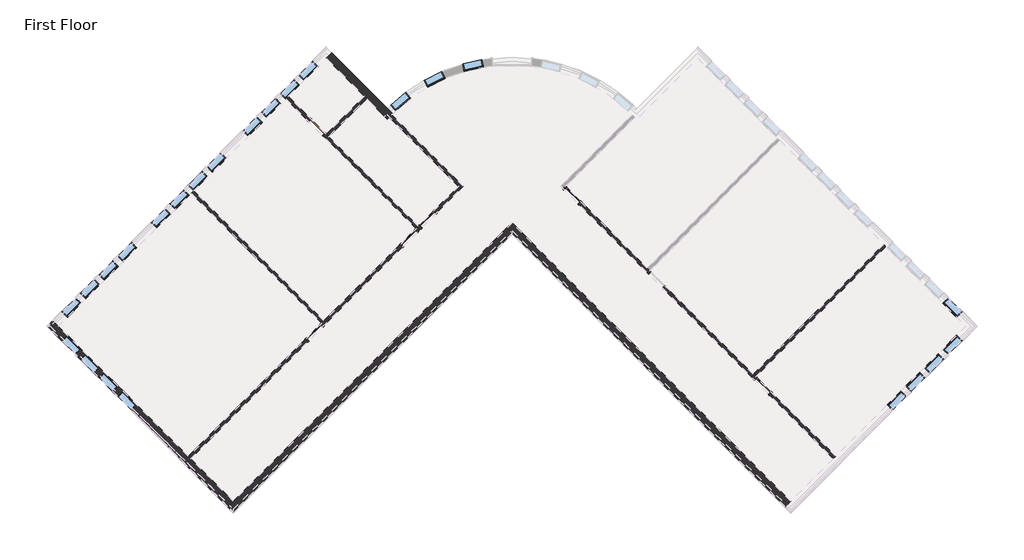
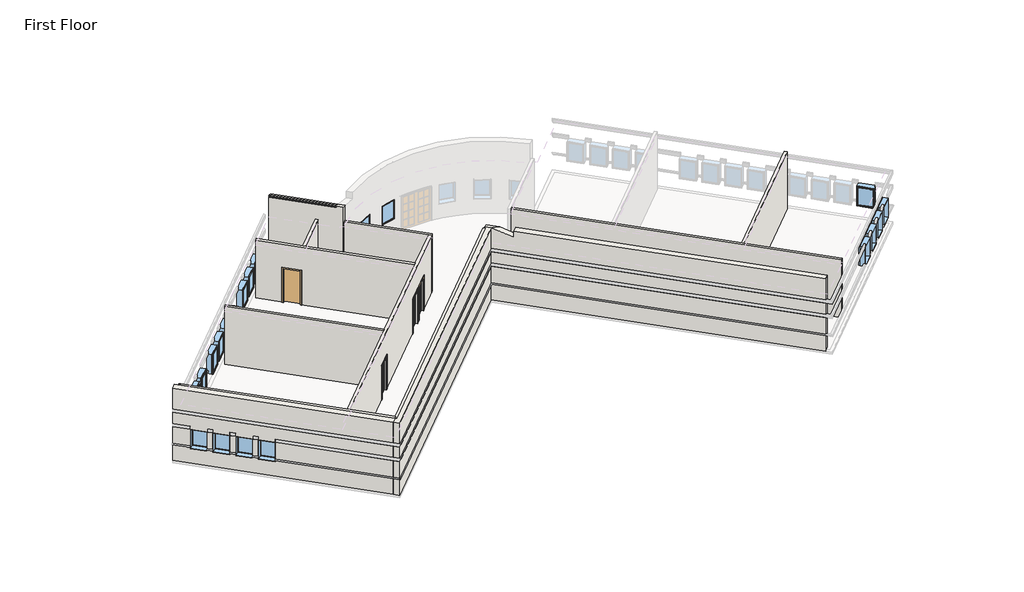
# One storey, part 1 of 4: 24 windows, 11 walls, 6 doors.
"""IFC4 building model written with IfcOpenShell, lengths in millimetres."""

from ifc_helpers import new_model, si_unit, frame, origin, origin_with_axes, place, context, project, spatial, polyline, circle_curve, ellipse_curve, outline, extrude, faceted_brep, transform, mapped, element, save
from ifc_brep_helpers import plane_surface, cylinder_surface, revolved_surface, advanced_brep
from components import door_f9494b7c, door_b81abb0e, door_5f5b55da, window_15c49d37, window_0e2fc6ce

model = new_model("IFC4")

# Units and contexts
model_context = context("Model", 3, world=origin())
ifc_project = project(units=[si_unit("LENGTHUNIT", "METRE", prefix="MILLI")], contexts=[model_context])

# Site, building, storey
site = spatial("IfcSite", under=ifc_project)
building = spatial("IfcBuilding", under=site)
storey = spatial("IfcBuildingStorey", under=building, Name="First Floor", Elevation=0.0)

# Doors
placement = place(None, origin())
door_shape = door_f9494b7c(model_context)
element("IfcDoor", 1, ObjectType="Single-Flush : 36\" x 84\"", at=placement, inside=storey, context=model_context, shape_type="MappedRepresentation", body=[
    mapped(door_shape, transform((-11920.1265343, 7875.9588464, 0.0), x_axis=(0.7071067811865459, -0.7071067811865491, 0.0), y_axis=(0.7071067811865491, 0.7071067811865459, 0.0), z_axis=(0.0, 0.0, 1.0))),
])
door_2_shape = door_b81abb0e(model_context)
element("IfcDoor", 2, ObjectType="Single-Glass 1 : 36\" x 84\"", at=placement, inside=storey, context=model_context, shape_type="MappedRepresentation", body=[
    mapped(door_2_shape, transform((-12027.7718255, -1647.4849877, 0.0), x_axis=(0.7071067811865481, 0.7071067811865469, 0.0), y_axis=(-0.7071067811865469, 0.7071067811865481, 0.0), z_axis=(0.0, 0.0, 1.0))),
])
element("IfcDoor", 3, ObjectType="Single-Glass 1 : 36\" x 84\"", at=placement, inside=storey, context=model_context, shape_type="MappedRepresentation", body=[
    mapped(door_2_shape, transform((-7643.2795567, 2737.0072811, 0.0), x_axis=(0.7071067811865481, 0.7071067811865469, 0.0), y_axis=(-0.7071067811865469, 0.7071067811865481, 0.0), z_axis=(0.0, 0.0, 1.0))),
])
door_3_shape = door_5f5b55da(model_context)
element("IfcDoor", 4, ObjectType="Single-Glass 1 : 36\" x 84\"", at=placement, inside=storey, context=model_context, shape_type="MappedRepresentation", body=[
    mapped(door_3_shape, transform((-6781.1749691, 3599.1118687, 0.0), x_axis=(-0.7071067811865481, -0.7071067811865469, 0.0), y_axis=(0.7071067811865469, -0.7071067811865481, 0.0), z_axis=(0.0, 0.0, 1.0))),
])
element("IfcDoor", 5, ObjectType="Single-Glass 1 : 36\" x 84\"", at=placement, inside=storey, context=model_context, shape_type="MappedRepresentation", body=[
    mapped(door_3_shape, transform((-66.4240191, 4710.6541283, 0.0), x_axis=(-0.7071067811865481, 0.7071067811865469, 0.0), y_axis=(-0.7071067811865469, -0.7071067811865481, 0.0), z_axis=(0.0, 0.0, 1.0))),
])
element("IfcDoor", 6, ObjectType="Single-Glass 1 : 36\" x 84\"", at=placement, inside=storey, context=model_context, shape_type="MappedRepresentation", body=[
    mapped(door_3_shape, transform((8770.3835686, -4126.1534594, 0.0), x_axis=(-0.7071067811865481, 0.7071067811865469, 0.0), y_axis=(-0.7071067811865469, -0.7071067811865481, 0.0), z_axis=(0.0, 0.0, 1.0))),
])

# Walls
element("IfcWall", 7, ObjectType="Exterior - Split Face and CMU on Mtl. Stud", at=placement, inside=storey, context=model_context, shape_type="Brep", body=[
    faceted_brep([(10063.54045, -9480.6311716, 0.0), (-2868.0283643, 3450.9376427, 0.0), (-2868.0283643, 3450.9376427, 4454.525), (-2369.6241496, 2952.533428, 4454.525), (-1756.7216693, 2339.6309478, 4165.6), (-1756.7216693, 2339.6309478, 4572.0), (10063.54045, -9480.6311716, 4572.0), (-3117.2304717, 3201.7355354, 4572.0), (-3117.2304717, 3201.7355354, 0.0), (-2868.0283643, 2952.533428, 0.0), (9814.3383427, -9729.833279, 0.0), (9814.3383427, -9729.833279, 1016.0), (-2868.0283643, 2952.533428, 1016.0), (-2933.1352212, 3017.6402849, 1016.0), (-2933.1352212, 3017.6402849, 1085.85), (-2868.0283643, 2952.533428, 1085.85), (9814.3383427, -9729.833279, 1085.85), (9814.3383427, -9729.833279, 2133.6), (-2868.0283643, 2952.533428, 2133.6), (-2933.1352212, 3017.6402849, 2133.6), (-2933.1352212, 3017.6402849, 2336.8), (-2868.0283643, 2952.533428, 2336.8), (9814.3383427, -9729.833279, 2336.8), (9814.3383427, -9729.833279, 3048.0), (-2868.0283643, 2952.533428, 3048.0), (-2933.1352212, 3017.6402849, 3048.0), (-2933.1352212, 3017.6402849, 3251.2), (-2868.0283643, 2952.533428, 3251.2), (9814.3383427, -9729.833279, 3251.2), (9814.3383427, -9729.833279, 4572.0), (-2005.9237767, 2090.4288404, 4572.0), (-2005.9237767, 2090.4288404, 4165.6), (-2868.0283643, 2952.533428, 4572.0), (-3052.1236148, 3266.8423923, 0.0), (9879.4451996, -9664.7264221, 3251.2), (9879.4451996, -9664.7264221, 3048.0), (9879.4451996, -9664.7264221, 2336.8), (9879.4451996, -9664.7264221, 2133.6), (9879.4451996, -9664.7264221, 1085.85), (9879.4451996, -9664.7264221, 1016.0), (9879.4451996, -9664.7264221, 0.0), (-2868.0283643, 3082.7471418, 1085.85), (-2868.0283643, 3082.7471418, 1016.0), (-2868.0283643, 3082.7471418, 2133.6), (-2868.0283643, 3082.7471418, 2336.8), (-2868.0283643, 3082.7471418, 3048.0), (-2868.0283643, 3082.7471418, 3251.2)], [[[0, 1, 2, 3, 4, 5, 6]], [[7, 8, 9, 10, 11, 12, 13, 14, 15, 16, 17, 18, 19, 20, 21, 22, 23, 24, 25, 26, 27, 28, 29, 30, 31, 32]], [[2, 1, 33, 8, 7]], [[0, 6, 29, 28, 34, 35, 23, 22, 36, 37, 17, 16, 38, 39, 11, 10, 40]], [[29, 6, 5, 30]], [[30, 5, 4, 31]], [[31, 4, 3, 32]], [[2, 7, 32, 3]], [[1, 0, 40, 33]], [[40, 10, 9, 8, 33]], [[14, 41, 38, 16, 15]], [[39, 42, 13, 12, 11]], [[41, 42, 39, 38]], [[42, 41, 14, 13]], [[37, 43, 19, 18, 17]], [[20, 44, 36, 22, 21]], [[44, 43, 37, 36]], [[43, 44, 20, 19]], [[35, 45, 25, 24, 23]], [[26, 46, 34, 28, 27]], [[46, 45, 35, 34]], [[45, 46, 26, 25]]]),
])
element("IfcWall", 8, ObjectType="Exterior - Split Face and CMU on Mtl. Stud", at=placement, inside=storey, context=model_context, shape_type="Brep", body=[
    faceted_brep([(-3117.2304717, 3201.7355354, 0.0), (-15799.5971786, -9480.6311716, 0.0), (-16048.799286, -9729.833279, 0.0), (-16048.799286, -9729.833279, 1016.0), (-15983.6924291, -9664.7264221, 1016.0), (-15983.6924291, -9664.7264221, 1085.85), (-16048.799286, -9729.833279, 1085.85), (-16048.799286, -9729.833279, 2133.6), (-15983.6924291, -9664.7264221, 2133.6), (-15983.6924291, -9664.7264221, 2336.8), (-16048.799286, -9729.833279, 2336.8), (-16048.799286, -9729.833279, 3048.0), (-15983.6924291, -9664.7264221, 3048.0), (-15983.6924291, -9664.7264221, 3251.2), (-16048.799286, -9729.833279, 3251.2), (-16048.799286, -9729.833279, 4572.0), (-15799.5971786, -9480.6311716, 4572.0), (-3135.1909839, 3183.7750231, 4572.0), (-3117.2304717, 3201.7355354, 4572.0), (-15799.5971786, -9979.0353863, 0.0), (-2868.0283643, 2952.533428, 0.0), (-2868.0283643, 2952.533428, 1016.0), (-15799.5971786, -9979.0353863, 1016.0), (-15799.5971786, -9979.0353863, 1085.85), (-2868.0283643, 2952.533428, 1085.85), (-2868.0283643, 2952.533428, 2133.6), (-15799.5971786, -9979.0353863, 2133.6), (-15799.5971786, -9979.0353863, 2336.8), (-2868.0283643, 2952.533428, 2336.8), (-2868.0283643, 2952.533428, 3048.0), (-15799.5971786, -9979.0353863, 3048.0), (-15799.5971786, -9979.0353863, 4572.0), (-15799.5971786, -9979.0353863, 3251.2), (-2868.0283643, 2952.533428, 3251.2), (-2868.0283643, 2952.533428, 4572.0), (-2885.9888765, 2934.5729158, 4572.0), (-15864.7040355, -9913.9285294, 0.0), (-2933.1352212, 3017.6402849, 3251.2), (-2933.1352212, 3017.6402849, 3048.0), (-2933.1352212, 3017.6402849, 2336.8), (-2933.1352212, 3017.6402849, 2133.6), (-2933.1352212, 3017.6402849, 1085.85), (-2933.1352212, 3017.6402849, 1016.0), (-2933.1352212, 3017.6402849, 0.0), (-15799.5971786, -9848.8216726, 1085.85), (-15799.5971786, -9848.8216726, 1016.0), (-15799.5971786, -9848.8216726, 2133.6), (-15799.5971786, -9848.8216726, 2336.8), (-15799.5971786, -9848.8216726, 3048.0), (-15799.5971786, -9848.8216726, 3251.2)], [[[0, 1, 2, 3, 4, 5, 6, 7, 8, 9, 10, 11, 12, 13, 14, 15, 16, 17, 18]], [[19, 20, 21, 22]], [[23, 24, 25, 26]], [[27, 28, 29, 30]], [[31, 32, 33, 34, 35]], [[2, 36, 19, 22, 3]], [[6, 23, 26, 7]], [[10, 27, 30, 11]], [[15, 14, 32, 31]], [[0, 18, 34, 33, 37, 38, 29, 28, 39, 40, 25, 24, 41, 42, 21, 20, 43]], [[2, 1, 0, 43, 36]], [[43, 20, 19, 36]], [[5, 44, 41, 24, 23, 6]], [[42, 45, 4, 3, 22, 21]], [[44, 45, 42, 41]], [[45, 44, 5, 4]], [[40, 46, 8, 7, 26, 25]], [[9, 47, 39, 28, 27, 10]], [[47, 46, 40, 39]], [[46, 47, 9, 8]], [[38, 48, 12, 11, 30, 29]], [[13, 49, 37, 33, 32, 14]], [[49, 48, 38, 37]], [[48, 49, 13, 12]], [[15, 31, 35, 34, 18, 17, 16]]]),
    faceted_brep([(-15799.5971786, -9480.6311716, 4689.475), (-3366.432579, 2952.533428, 4689.475), (-3260.200231, 3058.765776, 4639.3965909), (-15799.5971786, -9480.6311716, 4639.3965909), (-15874.9878772, -9556.0218702, 4653.9354839), (-3215.6511819, 2952.533428, 4653.9354839), (-15799.5971786, -9631.4125687, 4653.9354839)], [[[0, 1, 2, 3, 4]], [[2, 1, 5]], [[1, 0, 6, 5]], [[0, 4, 6]], [[6, 3, 2, 5]], [[3, 6, 4]]]),
])
element("IfcWall", 9, ObjectType="Exterior - Split Face and CMU on Mtl. Stud", at=placement, inside=storey, context=model_context, shape_type="Brep", body=[
    faceted_brep([(-23922.2388402, -1357.9895101, 4689.475), (-15799.5971786, -9480.6311716, 4689.475), (-15799.5971786, -9480.6311716, 4639.3965909), (-23922.2388402, -1357.9895101, 4639.3965909), (-23997.6295387, -1282.5988115, 4653.9354839), (-15874.9878772, -9556.0218702, 4653.9354839), (-24073.0202373, -1357.9895101, 4653.9354839)], [[[0, 1, 2, 3, 4]], [[2, 1, 5]], [[1, 0, 6, 5]], [[0, 4, 6]], [[6, 3, 2, 5]], [[3, 6, 4]]]),
    faceted_brep([(-15799.5971786, -9480.6311716, 0.0), (-17775.2535253, -7504.974825, 0.0), (-17885.2616628, -7394.9666875, 0.0), (-23922.2388402, -1357.9895101, 0.0), (-24171.4409475, -1108.7874027, 0.0), (-24171.4409475, -1108.7874027, 1016.0), (-24106.3340906, -1173.8942596, 1016.0), (-24106.3340906, -1173.8942596, 1085.85), (-24171.4409475, -1108.7874027, 1085.85), (-24171.4409475, -1108.7874027, 2133.6), (-24106.3340906, -1173.8942596, 2133.6), (-24106.3340906, -1173.8942596, 2336.8), (-24171.4409475, -1108.7874027, 2336.8), (-24171.4409475, -1108.7874027, 3048.0), (-24106.3340906, -1173.8942596, 3048.0), (-24106.3340906, -1173.8942596, 3251.2), (-24171.4409475, -1108.7874027, 3251.2), (-24171.4409475, -1108.7874027, 4572.0), (-23922.2388402, -1357.9895101, 4572.0), (-15799.5971786, -9480.6311716, 4572.0), (-20921.7107637, -4358.5175865, 2133.6), (-20921.7107637, -4358.5175865, 914.4), (-20275.132323, -5005.0960273, 914.4), (-20275.132323, -5005.0960273, 2133.6), (-21783.8153513, -3496.4129989, 2133.6), (-21783.8153513, -3496.4129989, 914.4), (-21137.2369106, -4142.9914396, 914.4), (-21137.2369106, -4142.9914396, 2133.6), (-22645.9199389, -2634.3084113, 2133.6), (-22645.9199389, -2634.3084113, 914.4), (-21999.3414982, -3280.886852, 914.4), (-21999.3414982, -3280.886852, 2133.6), (-23508.0245266, -1772.2038237, 2133.6), (-23508.0245266, -1772.2038237, 914.4), (-22861.4460859, -2418.7822644, 914.4), (-22861.4460859, -2418.7822644, 2133.6), (-24420.6430549, -1357.9895101, 0.0), (-16048.799286, -9729.833279, 0.0), (-16048.799286, -9729.833279, 1016.0), (-20524.3344303, -5254.2981346, 1016.0), (-20524.3344303, -5254.2981346, 914.4), (-21170.9128711, -4607.7196939, 914.4), (-21170.9128711, -4607.7196939, 1016.0), (-21386.439018, -4392.193547, 1016.0), (-21386.439018, -4392.193547, 914.4), (-22033.0174587, -3745.6151063, 914.4), (-22033.0174587, -3745.6151063, 1016.0), (-22248.5436056, -3530.0889594, 1016.0), (-22248.5436056, -3530.0889594, 914.4), (-22895.1220463, -2883.5105187, 914.4), (-22895.1220463, -2883.5105187, 1016.0), (-23110.6481932, -2667.9843718, 1016.0), (-23110.6481932, -2667.9843718, 914.4), (-23757.2266339, -2021.405931, 914.4), (-23757.2266339, -2021.405931, 1016.0), (-24420.6430549, -1357.9895101, 1016.0), (-21170.9128711, -4607.7196939, 2133.6), (-20524.3344303, -5254.2981346, 2133.6), (-20524.3344303, -5254.2981346, 2336.8), (-16048.799286, -9729.833279, 2336.8), (-16048.799286, -9729.833279, 3048.0), (-24420.6430549, -1357.9895101, 3048.0), (-24420.6430549, -1357.9895101, 2336.8), (-23757.2266339, -2021.405931, 2336.8), (-23757.2266339, -2021.405931, 2133.6), (-23110.6481932, -2667.9843718, 2133.6), (-23110.6481932, -2667.9843718, 2336.8), (-22895.1220463, -2883.5105187, 2336.8), (-22895.1220463, -2883.5105187, 2133.6), (-22248.5436056, -3530.0889594, 2133.6), (-22248.5436056, -3530.0889594, 2336.8), (-22033.0174587, -3745.6151063, 2336.8), (-22033.0174587, -3745.6151063, 2133.6), (-21386.439018, -4392.193547, 2133.6), (-21386.439018, -4392.193547, 2336.8), (-21170.9128711, -4607.7196939, 2336.8), (-20524.3344303, -5254.2981346, 1085.85), (-16048.799286, -9729.833279, 1085.85), (-16048.799286, -9729.833279, 2133.6), (-21170.9128711, -4607.7196939, 1085.85), (-21386.439018, -4392.193547, 1085.85), (-22033.0174587, -3745.6151063, 1085.85), (-22248.5436056, -3530.0889594, 1085.85), (-22895.1220463, -2883.5105187, 1085.85), (-23110.6481932, -2667.9843718, 1085.85), (-23757.2266339, -2021.405931, 1085.85), (-24420.6430549, -1357.9895101, 2133.6), (-24420.6430549, -1357.9895101, 1085.85), (-24420.6430549, -1357.9895101, 4572.0), (-24420.6430549, -1357.9895101, 3251.2), (-16048.799286, -9729.833279, 3251.2), (-16048.799286, -9729.833279, 4572.0), (-15983.6924291, -9664.7264221, 3251.2), (-15983.6924291, -9664.7264221, 3048.0), (-15983.6924291, -9664.7264221, 2336.8), (-15983.6924291, -9664.7264221, 2133.6), (-15983.6924291, -9664.7264221, 1085.85), (-15983.6924291, -9664.7264221, 1016.0), (-21105.8060142, -4542.612837, 2133.6), (-21105.8060142, -4542.612837, 1085.85), (-21105.8060142, -4542.612837, 1016.0), (-20459.2275735, -5189.1912777, 1016.0), (-20459.2275735, -5189.1912777, 1085.85), (-20459.2275735, -5189.1912777, 2133.6), (-21967.9106018, -3680.5082494, 2133.6), (-21967.9106018, -3680.5082494, 1085.85), (-21967.9106018, -3680.5082494, 1016.0), (-21321.3321611, -4327.0866901, 1016.0), (-21321.3321611, -4327.0866901, 1085.85), (-21321.3321611, -4327.0866901, 2133.6), (-22830.0151894, -2818.4036618, 2133.6), (-22830.0151894, -2818.4036618, 1085.85), (-22830.0151894, -2818.4036618, 1016.0), (-22183.4367487, -3464.9821025, 1016.0), (-22183.4367487, -3464.9821025, 1085.85), (-22183.4367487, -3464.9821025, 2133.6), (-23692.119777, -1956.2990742, 2133.6), (-23692.119777, -1956.2990742, 1085.85), (-23692.119777, -1956.2990742, 1016.0), (-23045.5413363, -2602.8775149, 1016.0), (-23045.5413363, -2602.8775149, 1085.85), (-23045.5413363, -2602.8775149, 2133.6), (-24290.4293411, -1357.9895101, 1085.85), (-24290.4293411, -1357.9895101, 1016.0), (-20459.2275735, -5189.1912777, 2133.6), (-20459.2275735, -5189.1912777, 2336.8), (-21105.8060142, -4542.612837, 2133.6), (-21105.8060142, -4542.612837, 2336.8), (-21321.3321611, -4327.0866901, 2336.8), (-21321.3321611, -4327.0866901, 2133.6), (-21967.9106018, -3680.5082494, 2133.6), (-21967.9106018, -3680.5082494, 2336.8), (-22183.4367487, -3464.9821025, 2336.8), (-22183.4367487, -3464.9821025, 2133.6), (-22830.0151894, -2818.4036618, 2133.6), (-22830.0151894, -2818.4036618, 2336.8), (-23045.5413363, -2602.8775149, 2336.8), (-23045.5413363, -2602.8775149, 2133.6), (-23692.119777, -1956.2990742, 2133.6), (-23692.119777, -1956.2990742, 2336.8), (-24290.4293411, -1357.9895101, 2133.6), (-24290.4293411, -1357.9895101, 2336.8), (-24290.4293411, -1357.9895101, 3048.0), (-24290.4293411, -1357.9895101, 3251.2)], [[[0, 1, 2, 3, 4, 5, 6, 7, 8, 9, 10, 11, 12, 13, 14, 15, 16, 17, 18, 19], [20, 21, 22, 23], [24, 25, 26, 27], [28, 29, 30, 31], [32, 33, 34, 35]], [[36, 37, 38, 39, 40, 41, 42, 43, 44, 45, 46, 47, 48, 49, 50, 51, 52, 53, 54, 55]], [[56, 57, 58, 59, 60, 61, 62, 63, 64, 65, 66, 67, 68, 69, 70, 71, 72, 73, 74, 75]], [[57, 76, 77, 78]], [[79, 56, 73, 80]], [[81, 72, 69, 82]], [[83, 68, 65, 84]], [[85, 64, 86, 87]], [[88, 89, 90, 91]], [[37, 0, 19, 91, 90, 92, 93, 60, 59, 94, 95, 78, 77, 96, 97, 38]], [[4, 36, 55, 5]], [[8, 87, 86, 9]], [[12, 62, 61, 13]], [[17, 16, 89, 88]], [[4, 3, 2, 1, 0, 37, 36]], [[21, 20, 98, 56, 79, 99, 100, 42, 41]], [[22, 21, 41, 40]], [[23, 22, 40, 39, 101, 102, 76, 57, 103]], [[20, 23, 103, 57, 56, 98]], [[25, 24, 104, 72, 81, 105, 106, 46, 45]], [[26, 25, 45, 44]], [[27, 26, 44, 43, 107, 108, 80, 73, 109]], [[24, 27, 109, 73, 72, 104]], [[29, 28, 110, 68, 83, 111, 112, 50, 49]], [[30, 29, 49, 48]], [[31, 30, 48, 47, 113, 114, 82, 69, 115]], [[28, 31, 115, 69, 68, 110]], [[33, 32, 116, 64, 85, 117, 118, 54, 53]], [[34, 33, 53, 52]], [[35, 34, 52, 51, 119, 120, 84, 65, 121]], [[32, 35, 121, 65, 64, 116]], [[102, 96, 77, 76]], [[97, 101, 39, 38]], [[96, 102, 101, 97]], [[108, 99, 79, 80]], [[100, 107, 43, 42]], [[99, 108, 107, 100]], [[114, 105, 81, 82]], [[106, 113, 47, 46]], [[105, 114, 113, 106]], [[120, 111, 83, 84]], [[112, 119, 51, 50]], [[111, 120, 119, 112]], [[122, 117, 85, 87, 8, 7]], [[118, 123, 6, 5, 55, 54]], [[117, 122, 123, 118]], [[123, 122, 7, 6]], [[124, 57, 78, 95]], [[58, 125, 94, 59]], [[57, 124, 125, 58]], [[125, 124, 95, 94]], [[126, 56, 75, 127]], [[128, 74, 73, 129]], [[56, 126, 129, 73]], [[126, 127, 128, 129]], [[127, 75, 74, 128]], [[130, 72, 71, 131]], [[132, 70, 69, 133]], [[72, 130, 133, 69]], [[130, 131, 132, 133]], [[131, 71, 70, 132]], [[134, 68, 67, 135]], [[136, 66, 65, 137]], [[68, 134, 137, 65]], [[134, 135, 136, 137]], [[135, 67, 66, 136]], [[138, 64, 63, 139]], [[64, 138, 140, 10, 9, 86]], [[138, 139, 141, 140]], [[139, 63, 62, 12, 11, 141]], [[140, 141, 11, 10]], [[93, 142, 14, 13, 61, 60]], [[15, 143, 92, 90, 89, 16]], [[143, 142, 93, 92]], [[142, 143, 15, 14]], [[19, 18, 17, 88, 91]]]),
])
element("IfcWall", 10, ObjectType="Exterior - Split Face and CMU on Mtl. Stud", at=placement, inside=storey, context=model_context, shape_type="AdvancedBrep", body=[
    advanced_brep(
    [(-8658.0122729, 8244.1131219, 0.0), (-8658.0122729, 8244.1131219, 4689.475), (-11489.0742405, 11075.1750895, 4689.475), (-11489.0742405, 11075.1750895, 4639.3965909), (-8911.6883314, 8497.7891804, 4639.3965909), (-8911.6883314, 8497.7891804, 4572.0), (-11489.0742405, 11075.1750895, 4572.0), (-11489.0742405, 11075.1750895, 0.0), (-9728.9440408, 9315.0448898, 0.0), (-9618.9359033, 9205.0367523, 0.0), (-8413.2817722, 8497.7868359, 4572.0), (-8413.2817722, 8497.7868359, 0.0), (-8662.486224, 8746.9912878, 0.0), (-11239.8721332, 11324.3771969, 0.0), (-11239.8721332, 11324.3771969, 1016.0), (-8662.486224, 8746.9912878, 1016.0), (-8597.3787742, 8681.8838379, 1016.0), (-8597.3787742, 8681.8838379, 1085.85), (-8662.486224, 8746.9912878, 1085.85), (-11239.8721332, 11324.3771969, 1085.85), (-11239.8721332, 11324.3771969, 2133.6), (-8662.486224, 8746.9912878, 2133.6), (-8597.3787742, 8681.8838379, 2133.6), (-8597.3787742, 8681.8838379, 2336.8), (-8662.486224, 8746.9912878, 2336.8), (-11239.8721332, 11324.3771969, 2336.8), (-11239.8721332, 11324.3771969, 3048.0), (-8662.486224, 8746.9912878, 3048.0), (-8597.3787742, 8681.8838379, 3048.0), (-8597.3787742, 8681.8838379, 3251.2), (-8662.486224, 8746.9912878, 3251.2), (-11239.8721332, 11324.3771969, 3251.2), (-11239.8721332, 11324.3771969, 4572.0), (-8662.486224, 8746.9912878, 4572.0), (-11304.9789901, 11259.27034, 3251.2), (-11304.9789901, 11259.27034, 3048.0), (-11304.9789901, 11259.27034, 2336.8), (-11304.9789901, 11259.27034, 2133.6), (-11304.9789901, 11259.27034, 1085.85), (-11304.9789901, 11259.27034, 1016.0), (-11413.683542, 11150.5657881, 4653.9354839), (-8557.7157352, 8350.8336041, 0.0), (-8449.0111375, 8462.1452813, 0.0), (-8836.2976328, 8573.179879, 4653.9354839), (-8662.3967205, 8616.6880705, 1085.85), (-8662.3967205, 8616.6880705, 1016.0), (-8662.3967205, 8616.6880705, 2336.8), (-8662.3967205, 8616.6880705, 2133.6), (-8662.3967205, 8616.6880705, 3251.2), (-8662.3967205, 8616.6880705, 3048.0)],
    [
        (0, 1),
        (1, 2),
        (2, 3),
        (3, 4),
        (4, 5),
        (5, 6),
        (6, 7),
        (7, 8),
        (8, 9),
        (9, 0),
        (10, 11),
        (11, 12),
        (12, 13),
        (13, 14),
        (14, 15),
        (15, 16),
        (16, 17),
        (17, 18),
        (18, 19),
        (19, 20),
        (20, 21),
        (21, 22),
        (22, 23),
        (23, 24),
        (24, 25),
        (25, 26),
        (26, 27),
        (27, 28),
        (28, 29),
        (29, 30),
        (30, 31),
        (31, 32),
        (32, 33),
        (33, 10),
        (13, 7),
        (6, 32),
        (31, 34),
        (34, 35),
        (35, 26),
        (25, 36),
        (36, 37),
        (37, 20),
        (19, 38),
        (38, 39),
        (39, 14),
        (2, 40),
        (40, 3),
        (0, 41, circle_curve(frame((-2868.0283643, 2903.1420194, 0.0), z_axis=(0.0, 0.0, -1.0), x_axis=(1.0, 0.0, 0.0)), 7877.175)),
        (41, 42, circle_curve(frame((-2868.0283643, 2903.1420194, 0.0), z_axis=(0.0, 0.0, -1.0), x_axis=(1.0, 0.0, 0.0)), 7877.175)),
        (42, 11, circle_curve(frame((-2868.0283643, 2903.1420194, 0.0), z_axis=(0.0, 0.0, -1.0), x_axis=(1.0, 0.0, 0.0)), 7877.175)),
        (10, 1, ellipse_curve(frame((-2868.0283643, 2903.1420194, 4583.6416667), z_axis=(0.2236067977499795, 0.22360679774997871, 0.9486832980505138), x_axis=(0.6708203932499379, 0.6708203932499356, -0.31622776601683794)), 8303.2715092, 7877.175)),
        (33, 43),
        (43, 40),
        (44, 45),
        (45, 39),
        (38, 44),
        (17, 44, circle_curve(frame((-2868.0283643, 2903.1420194, 1085.85), z_axis=(0.0, 0.0, 1.0), x_axis=(-0.7040995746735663, 0.7101012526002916, 0.0)), 8137.525)),
        (45, 16, circle_curve(frame((-2868.0283643, 2903.1420194, 1016.0), z_axis=(0.0, 0.0, -1.0), x_axis=(-0.7040995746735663, 0.7101012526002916, 0.0)), 8137.525)),
        (46, 47),
        (47, 37),
        (36, 46),
        (47, 22, circle_curve(frame((-2868.0283643, 2903.1420194, 2133.6), z_axis=(0.0, 0.0, -1.0), x_axis=(-0.7120553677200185, 0.70212331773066, 0.0)), 8137.525)),
        (46, 23, circle_curve(frame((-2868.0283643, 2903.1420194, 2336.8), z_axis=(0.0, 0.0, -1.0), x_axis=(-0.7120553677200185, 0.70212331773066, 0.0)), 8137.525)),
        (48, 49),
        (49, 35),
        (34, 48),
        (49, 28, circle_curve(frame((-2868.0283643, 2903.1420194, 3048.0), z_axis=(0.0, 0.0, -1.0), x_axis=(-0.7120553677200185, 0.70212331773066, 0.0)), 8137.525)),
        (48, 29, circle_curve(frame((-2868.0283643, 2903.1420194, 3251.2), z_axis=(0.0, 0.0, -1.0), x_axis=(-0.7120553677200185, 0.70212331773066, 0.0)), 8137.525)),
        (5, 33),
        (4, 43),
    ],
    [
        plane_surface(frame((-11738.2763479, 11324.3771969, 0.0), z_axis=(-0.7071067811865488, -0.7071067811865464, 0.0), x_axis=(0.7071067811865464, -0.7071067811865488, 0.0))),
        plane_surface(frame((-11489.0742405, 11573.5793042, 0.0), z_axis=(0.7071067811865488, 0.7071067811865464, 0.0), x_axis=(-0.7071067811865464, 0.7071067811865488, 0.0))),
        plane_surface(frame((-24171.4409475, -1607.1916175, 0.0), z_axis=(-0.7071067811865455, 0.7071067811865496, 0.0), x_axis=(0.7071067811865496, 0.7071067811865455, 0.0))),
        revolved_surface(polyline([(5009.146635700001, 2903.1420194, 0.0), (5009.146635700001, 2903.1420194, 7209.366666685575)]), (-2868.0283643, 2903.1420194, 0.0), (0.0, 0.0, -1.0)),
        plane_surface(frame((-1143.8191891, 2952.533428, 4165.6), z_axis=(0.2236067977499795, 0.22360679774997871, 0.9486832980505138), x_axis=(-0.7071067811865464, 0.7071067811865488, 0.0))),
        plane_surface(frame((-11364.4731869, 11448.9782506, 0.0), z_axis=(0.0, 0.0, -1.0), x_axis=(-0.7071067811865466, 0.7071067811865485, 0.0))),
        plane_surface(frame((-11489.0742405, 11443.3655905, 1016.0), z_axis=(0.7071067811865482, 0.7071067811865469, 0.0), x_axis=(0.7071067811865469, -0.7071067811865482, 0.0))),
        plane_surface(frame((-2868.0283643, 2903.1420194, 1085.85), z_axis=(0.0, 0.0, -1.0), x_axis=(-0.7040995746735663, 0.7101012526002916, 0.0))),
        plane_surface(frame((-2868.0283643, 2903.1420194, 1016.0), z_axis=(0.0, 0.0, 1.0), x_axis=(-0.7040995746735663, 0.7101012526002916, 0.0))),
        cylinder_surface(frame((-2868.0283643, 2903.1420194, 1016.0), z_axis=(0.0, 0.0, -1.0), x_axis=(-0.7040995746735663, 0.7101012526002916, 0.0)), 8137.525),
        plane_surface(frame((-11489.0742405, 11443.3655905, 2133.6), z_axis=(0.7071067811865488, 0.7071067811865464, 0.0), x_axis=(0.7071067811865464, -0.7071067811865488, 0.0))),
        plane_surface(frame((-2868.0283643, 2903.1420194, 2133.6), z_axis=(0.0, 0.0, 1.0), x_axis=(-0.7120553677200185, 0.70212331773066, 0.0))),
        cylinder_surface(frame((-2868.0283643, 2903.1420194, 2133.6), z_axis=(0.0, 0.0, -1.0), x_axis=(-0.7120553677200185, 0.70212331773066, 0.0)), 8137.525),
        plane_surface(frame((-2868.0283643, 2903.1420194, 2336.8), z_axis=(0.0, 0.0, -1.0), x_axis=(-0.7120553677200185, 0.70212331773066, 0.0))),
        plane_surface(frame((-11489.0742405, 11443.3655905, 3048.0), z_axis=(0.7071067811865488, 0.7071067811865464, 0.0), x_axis=(0.7071067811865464, -0.7071067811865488, 0.0))),
        plane_surface(frame((-2868.0283643, 2903.1420194, 3048.0), z_axis=(0.0, 0.0, 1.0), x_axis=(-0.7120553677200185, 0.70212331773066, 0.0))),
        cylinder_surface(frame((-2868.0283643, 2903.1420194, 3048.0), z_axis=(0.0, 0.0, -1.0), x_axis=(-0.7120553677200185, 0.70212331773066, 0.0)), 8137.525),
        plane_surface(frame((-2868.0283643, 2903.1420194, 3251.2), z_axis=(0.0, 0.0, -1.0), x_axis=(-0.7120553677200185, 0.70212331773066, 0.0))),
        plane_surface(frame((-24438.6035671, -1340.0289979, 4572.0), z_axis=(0.0, 0.0, 1.0), x_axis=(0.7071067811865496, 0.7071067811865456, 0.0))),
        plane_surface(frame((-8662.486224, 8746.9912878, 4185.7445793), z_axis=(-0.7071067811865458, 0.7071067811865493, 0.0), x_axis=(0.7071067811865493, 0.7071067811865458, 0.0))),
        plane_surface(frame((-11489.0742405, 11034.763937, 4635.5), z_axis=(0.0955394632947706, 0.09553946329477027, -0.9908301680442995), x_axis=(0.7071067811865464, -0.7071067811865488, 0.0))),
    ],
    [
        (0, [[1, 2, 3, 4, 5, 6, 7, 8, 9, 10]]),
        (1, [[11, 12, 13, 14, 15, 16, 17, 18, 19, 20, 21, 22, 23, 24, 25, 26, 27, 28, 29, 30, 31, 32, 33, 34]]),
        (2, [[35, -7, 36, -32, 37, 38, 39, -26, 40, 41, 42, -20, 43, 44, 45, -14]]),
        (2, [[-3, 46, 47]]),
        (3, [[48, 49, 50, -11, 51, -1]]),
        (4, [[-2, -51, -34, 52, 53, -46]]),
        (5, [[-50, -49, -48, -10, -9, -8, -35, -13, -12]]),
        (6, [[54, 55, -44, 56]]),
        (7, [[57, -56, -43, -19, -18]]),
        (8, [[-55, 58, -16, -15, -45]]),
        (9, [[-54, -57, -17, -58]]),
        (10, [[59, 60, -41, 61]]),
        (11, [[-60, 62, -22, -21, -42]]),
        (12, [[-59, 63, -23, -62]]),
        (13, [[-63, -61, -40, -25, -24]]),
        (14, [[64, 65, -38, 66]]),
        (15, [[-65, 67, -28, -27, -39]]),
        (16, [[-64, 68, -29, -67]]),
        (17, [[-68, -66, -37, -31, -30]]),
        (18, [[69, -33, -36, -6]]),
        (19, [[70, -52, -69, -5]]),
        (20, [[-70, -4, -47, -53]]),
    ],
),
])
element("IfcWall", 11, ObjectType="Interior - 6 1/8\" Partition (2-hr)", at=placement, inside=storey, context=model_context, shape_type="Brep", body=[
    faceted_brep([(-7264.9862676, 3005.2924327, 0.0), (-7049.4601207, 3220.8185796, 0.0), (-7049.4601207, 3220.8185796, 2133.6), (-6402.88168, 3867.3970204, 2133.6), (-6402.88168, 3867.3970204, 0.0), (-5238.5804157, 5031.6982846, 0.0), (-5238.5804157, 5031.6982846, 3657.6), (-17775.2535253, -7504.974825, 3657.6), (-17775.2535253, -7504.974825, 0.0), (-12296.0569771, -2025.7782768, 0.0), (-12296.0569771, -2025.7782768, 2133.6), (-11649.4785364, -1379.1998361, 2133.6), (-11649.4785364, -1379.1998361, 0.0), (-7911.5647083, 2358.713992, 0.0), (-7911.5647083, 2358.713992, 2133.6), (-7264.9862676, 3005.2924327, 2133.6), (-7159.4682582, 3330.8267171, 2133.6), (-7159.4682582, 3330.8267171, 0.0), (-7212.2272629, 3278.0677124, 0.0), (-7322.2354004, 3168.0595749, 0.0), (-7374.9944051, 3115.3005702, 0.0), (-7374.9944051, 3115.3005702, 2133.6), (-8021.5728458, 2468.7221295, 2133.6), (-8021.5728458, 2468.7221295, 0.0), (-11596.7195317, -1106.4245564, 0.0), (-11706.7276692, -1216.4326939, 0.0), (-11759.4866739, -1269.1916986, 0.0), (-11759.4866739, -1269.1916986, 2133.6), (-12406.0651146, -1915.7701393, 2133.6), (-12406.0651146, -1915.7701393, 0.0), (-17885.2616628, -7394.9666875, 0.0), (-17885.2616628, -7394.9666875, 3657.6), (-11706.7276692, -1216.4326939, 3657.6), (-11596.7195317, -1106.4245564, 3657.6), (-7322.2354004, 3168.0595749, 3657.6), (-7212.2272629, 3278.0677124, 3657.6), (-5348.5885532, 5141.7064221, 3657.6), (-5348.5885532, 5141.7064221, 0.0), (-6512.8898174, 3977.4051578, 0.0), (-6512.8898174, 3977.4051578, 2133.6)], [[[0, 1, 2, 3, 4, 5, 6, 7, 8, 9, 10, 11, 12, 13, 14, 15]], [[16, 17, 18, 19, 20, 21, 22, 23, 24, 25, 26, 27, 28, 29, 30, 31, 32, 33, 34, 35, 36, 37, 38, 39]], [[20, 19, 18, 17, 1, 0]], [[9, 8, 30, 29]], [[13, 12, 26, 25, 24, 23]], [[38, 37, 5, 4]], [[7, 6, 36, 35, 34, 33, 32, 31]], [[8, 7, 31, 30]], [[6, 5, 37, 36]], [[27, 26, 12, 11]], [[28, 27, 11, 10]], [[29, 28, 10, 9]], [[21, 20, 0, 15]], [[22, 21, 15, 14]], [[23, 22, 14, 13]], [[2, 1, 17, 16]], [[3, 2, 16, 39]], [[4, 3, 39, 38]]]),
])
element("IfcWall", 12, ObjectType="Interior - 6 1/8\" Partition (2-hr)", at=placement, inside=storey, context=model_context, shape_type="Brep", body=[
    faceted_brep([(-7212.2272629, 3278.0677124, 0.0), (-11379.066103, 7444.9065526, 0.0), (-11489.0742405, 7554.9146901, 0.0), (-11541.8332452, 7607.6736948, 0.0), (-11541.8332452, 7607.6736948, 2133.6), (-12188.411686, 8254.2521355, 2133.6), (-12188.411686, 8254.2521355, 0.0), (-13249.2044403, 9315.0448898, 0.0), (-13249.2044403, 9315.0448898, 3657.6), (-11489.0742405, 7554.9146901, 3657.6), (-11379.066103, 7444.9065526, 3657.6), (-7212.2272629, 3278.0677124, 3657.6), (-11651.8413827, 7497.6655573, 2133.6), (-11651.8413827, 7497.6655573, 0.0), (-7322.2354004, 3168.0595749, 0.0), (-7322.2354004, 3168.0595749, 3657.6), (-13359.2125777, 9205.0367523, 3657.6), (-13359.2125777, 9205.0367523, 0.0), (-12298.4198234, 8144.243998, 0.0), (-12298.4198234, 8144.243998, 2133.6)], [[[0, 1, 2, 3, 4, 5, 6, 7, 8, 9, 10, 11]], [[12, 13, 14, 15, 16, 17, 18, 19]], [[14, 13, 3, 2, 1, 0]], [[18, 17, 7, 6]], [[11, 10, 9, 8, 16, 15]], [[8, 7, 17, 16]], [[0, 11, 15, 14]], [[4, 3, 13, 12]], [[5, 4, 12, 19]], [[6, 5, 19, 18]]]),
])
element("IfcWall", 13, ObjectType="Interior - 6 1/8\" Partition (2-hr)", at=placement, inside=storey, context=model_context, shape_type="AdvancedBrep", body=[
    advanced_brep(
    [(-5128.5722782, 5141.7064221, 0.0), (-8449.0111375, 8462.1452813, 0.0), (-8449.0111375, 8462.1452813, 3657.6), (-5128.5722782, 5141.7064221, 3657.6), (-5238.5804157, 5031.6982846, 0.0), (-5238.5804157, 5031.6982846, 3657.6), (-5348.5885532, 5141.7064221, 3657.6), (-8557.7157352, 8350.8336041, 3657.6), (-8557.7157352, 8350.8336041, 0.0), (-5348.5885532, 5141.7064221, 0.0)],
    [
        (0, 1),
        (1, 2),
        (2, 3),
        (3, 0),
        (4, 5),
        (5, 6),
        (6, 7),
        (7, 8),
        (8, 9),
        (9, 4),
        (0, 4),
        (8, 1, circle_curve(frame((-2868.0283643, 2903.1420194, 0.0), z_axis=(0.0, 0.0, -1.0), x_axis=(1.0, 0.0, 0.0)), 7877.175)),
        (2, 7, circle_curve(frame((-2868.0283643, 2903.1420194, 3657.6), z_axis=(0.0, 0.0, 1.0), x_axis=(1.0, 0.0, 0.0)), 7877.175)),
        (5, 3),
    ],
    [
        plane_surface(frame((-5183.576347, 5196.7104908, 0.0), z_axis=(0.7071067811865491, 0.7071067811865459, 0.0), x_axis=(-0.7071067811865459, 0.7071067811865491, 0.0))),
        plane_surface(frame((-5293.5844845, 5086.7023533, 0.0), z_axis=(-0.7071067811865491, -0.7071067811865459, 0.0), x_axis=(0.7071067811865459, -0.7071067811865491, 0.0))),
        plane_surface(frame((-5183.576347, 5196.7104908, 0.0), z_axis=(0.0, 0.0, -1.0), x_axis=(-0.707106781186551, -0.7071067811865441, 0.0))),
        plane_surface(frame((-8573.2406241, 8586.374768, 3657.6), z_axis=(0.0, 0.0, 1.0), x_axis=(-0.707106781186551, -0.7071067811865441, 0.0))),
        plane_surface(frame((-17899.854579, -7629.5758786, 0.0), z_axis=(0.7071067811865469, -0.7071067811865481, 0.0), x_axis=(0.7071067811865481, 0.7071067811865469, 0.0))),
        cylinder_surface(frame((-2868.0283643, 2903.1420194, 0.0), z_axis=(0.0, 0.0, -1.0), x_axis=(1.0, 0.0, 0.0)), 7877.175),
    ],
    [
        (0, [[1, 2, 3, 4]]),
        (1, [[5, 6, 7, 8, 9, 10]]),
        (2, [[-1, 11, -10, -9, 12]]),
        (3, [[-3, 13, -7, -6, 14]]),
        (4, [[-4, -14, -5, -11]]),
        (5, [[-2, -12, -8, -13]]),
    ],
),
])
element("IfcWall", 14, ObjectType="Interior - 6 1/8\" Partition (2-hr)", at=placement, inside=storey, context=model_context, shape_type="SweptSolid", body=[
    extrude(outline(polyline([(-11489.0742405, 7554.9146901), (-9728.9440408, 9315.0448898), (-9618.9359033, 9205.0367523), (-11379.066103, 7444.9065526), (-11489.0742405, 7554.9146901)])), origin_with_axes(), (0.0, 0.0, 1.0), 3657.6),
])
element("IfcWall", 15, ObjectType="Interior - 6 1/8\" Partition (2-hr)", at=placement, inside=storey, context=model_context, shape_type="SweptSolid", body=[
    extrude(outline(polyline([(-17633.6967091, 4930.552621), (-11596.7195317, -1106.4245564), (-11706.7276692, -1216.4326939), (-17743.7048466, 4820.5444835), (-17633.6967091, 4930.552621)])), origin_with_axes(), (0.0, 0.0, 1.0), 3657.6),
])
element("IfcWall", 16, ObjectType="Interior - 6 1/8\" Partition (2-hr)", at=placement, inside=storey, context=model_context, shape_type="Brep", body=[
    faceted_brep([(-387.4681754, 5141.7064221, 0.0), (-334.7091707, 5088.9474174, 0.0), (-444.7173082, 4978.9392799, 0.0), (-497.4763129, 5031.6982846, 0.0), (311.86927, 4442.3689766, 0.0), (3415.9058564, 1338.3323903, 0.0), (3525.9139939, 1228.3242528, 0.0), (3578.6729986, 1175.5652481, 0.0), (3468.6648611, 1065.5571106, 0.0), (201.8611325, 4332.3608392, 0.0), (4225.2514393, 528.9868073, 0.0), (8339.3312748, -3585.0930281, 0.0), (8449.3394123, -3695.1011656, 0.0), (8502.098417, -3747.8601703, 0.0), (8392.0902795, -3857.8683078, 0.0), (4115.2433018, 418.9786699, 0.0), (9148.6768577, -4394.438611, 0.0), (12149.2049342, -7394.9666875, 0.0), (12039.1967967, -7504.974825, 0.0), (9038.6687202, -4504.4467485, 0.0), (12149.2049342, -7394.9666875, 3657.6), (8449.3394123, -3695.1011656, 3657.6), (8339.3312748, -3585.0930281, 3657.6), (3525.9139939, 1228.3242528, 3657.6), (3415.9058564, 1338.3323903, 3657.6), (-387.4681754, 5141.7064221, 3657.6), (-497.4763129, 5031.6982846, 3657.6), (12039.1967967, -7504.974825, 3657.6), (8502.098417, -3747.8601703, 2133.6), (4225.2514393, 528.9868073, 2133.6), (3578.6729986, 1175.5652481, 2133.6), (311.86927, 4442.3689766, 2133.6), (-334.7091707, 5088.9474174, 2133.6), (9148.6768577, -4394.438611, 2133.6), (8392.0902795, -3857.8683078, 2133.6), (9038.6687202, -4504.4467485, 2133.6), (-444.7173082, 4978.9392799, 2133.6), (201.8611325, 4332.3608392, 2133.6), (3468.6648611, 1065.5571106, 2133.6), (4115.2433018, 418.9786699, 2133.6)], [[[0, 1, 2, 3]], [[4, 5, 6, 7, 8, 9]], [[10, 11, 12, 13, 14, 15]], [[16, 17, 18, 19]], [[20, 21, 22, 23, 24, 25, 26, 27]], [[28, 13, 12, 11, 10, 29, 30, 7, 6, 5, 4, 31, 32, 1, 0, 25, 24, 23, 22, 21, 20, 17, 16, 33]], [[15, 14, 34, 35, 19, 18, 27, 26, 3, 2, 36, 37, 9, 8, 38, 39]], [[25, 0, 3, 26]], [[17, 20, 27, 18]], [[36, 2, 1, 32]], [[37, 36, 32, 31]], [[9, 37, 31, 4]], [[38, 8, 7, 30]], [[39, 38, 30, 29]], [[15, 39, 29, 10]], [[34, 14, 13, 28]], [[35, 34, 28, 33]], [[19, 35, 33, 16]]]),
])
element("IfcWall", 17, ObjectType="Interior - 6 1/8\" Partition (2-hr)", at=placement, inside=storey, context=model_context, shape_type="SweptSolid", body=[
    extrude(outline(polyline([(8339.3312748, -3585.0930281), (14376.3084522, 2451.8841493), (14486.3165897, 2341.8760118), (8449.3394123, -3695.1011656), (8339.3312748, -3585.0930281)])), origin_with_axes(), (0.0, 0.0, 1.0), 3657.6),
])

# Windows
window_shape = window_15c49d37(model_context)
element("IfcWindow", 18, ObjectType="Fixed : 36\" x 48\"", at=placement, inside=storey, context=model_context, shape_type="MappedRepresentation", body=[
    mapped(window_shape, transform((-23336.2771283, -522.8256908, 0.0), x_axis=(-0.7071067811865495, -0.7071067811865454, 0.0), y_axis=(0.7071067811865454, -0.7071067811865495, 0.0), z_axis=(0.0, 0.0, 1.0))),
])
element("IfcWindow", 19, ObjectType="Fixed : 36\" x 48\"", at=placement, inside=storey, context=model_context, shape_type="MappedRepresentation", body=[
    mapped(window_shape, transform((-8066.2237793, 9037.6928325, 0.0), x_axis=(-0.7659856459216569, -0.6428576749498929, 0.0), y_axis=(0.6428576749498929, -0.7659856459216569, 0.0), z_axis=(0.0, 0.0, 1.0))),
])
element("IfcWindow", 20, ObjectType="Fixed : 36\" x 48\"", at=placement, inside=storey, context=model_context, shape_type="MappedRepresentation", body=[
    mapped(window_shape, transform((-22474.1725406, 339.2788968, 0.0), x_axis=(-0.7071067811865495, -0.7071067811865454, 0.0), y_axis=(0.7071067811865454, -0.7071067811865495, 0.0), z_axis=(0.0, 0.0, 1.0))),
])
element("IfcWindow", 21, ObjectType="Fixed : 36\" x 48\"", at=placement, inside=storey, context=model_context, shape_type="MappedRepresentation", body=[
    mapped(window_shape, transform((-21612.067953, 1201.3834844, 0.0), x_axis=(-0.7071067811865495, -0.7071067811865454, 0.0), y_axis=(0.7071067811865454, -0.7071067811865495, 0.0), z_axis=(0.0, 0.0, 1.0))),
])
element("IfcWindow", 22, ObjectType="Fixed : 36\" x 48\"", at=placement, inside=storey, context=model_context, shape_type="MappedRepresentation", body=[
    mapped(window_shape, transform((-20749.9633654, 2063.488072, 0.0), x_axis=(-0.7071067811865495, -0.7071067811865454, 0.0), y_axis=(0.7071067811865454, -0.7071067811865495, 0.0), z_axis=(0.0, 0.0, 1.0))),
])
element("IfcWindow", 23, ObjectType="Fixed : 36\" x 48\"", at=placement, inside=storey, context=model_context, shape_type="MappedRepresentation", body=[
    mapped(window_shape, transform((-4714.6266038, 10728.998151, 0.0), x_axis=(-0.9743494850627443, -0.2250401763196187, 0.0), y_axis=(0.2250401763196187, -0.9743494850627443, 0.0), z_axis=(0.0, 0.0, 1.0))),
])
element("IfcWindow", 24, ObjectType="Fixed : 36\" x 48\"", at=placement, inside=storey, context=model_context, shape_type="MappedRepresentation", body=[
    mapped(window_shape, transform((-6490.5147795, 10081.6893252, 0.0), x_axis=(-0.8948935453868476, -0.4462796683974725, 0.0), y_axis=(0.4462796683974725, -0.8948935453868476, 0.0), z_axis=(0.0, 0.0, 1.0))),
])
element("IfcWindow", 25, ObjectType="Fixed : 36\" x 48\"", at=placement, inside=storey, context=model_context, shape_type="MappedRepresentation", body=[
    mapped(window_shape, transform((-19187.8702245, 3625.5812129, 0.0), x_axis=(-0.7071067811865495, -0.7071067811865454, 0.0), y_axis=(0.7071067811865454, -0.7071067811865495, 0.0), z_axis=(0.0, 0.0, 1.0))),
])
element("IfcWindow", 26, ObjectType="Fixed : 36\" x 48\"", at=placement, inside=storey, context=model_context, shape_type="MappedRepresentation", body=[
    mapped(window_shape, transform((-18325.7656368, 4487.6858006, 0.0), x_axis=(-0.7071067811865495, -0.7071067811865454, 0.0), y_axis=(0.7071067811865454, -0.7071067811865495, 0.0), z_axis=(0.0, 0.0, 1.0))),
])
element("IfcWindow", 27, ObjectType="Fixed : 36\" x 48\"", at=placement, inside=storey, context=model_context, shape_type="MappedRepresentation", body=[
    mapped(window_shape, transform((-17463.6610492, 5349.7903882, 0.0), x_axis=(-0.7071067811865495, -0.7071067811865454, 0.0), y_axis=(0.7071067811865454, -0.7071067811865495, 0.0), z_axis=(0.0, 0.0, 1.0))),
])
element("IfcWindow", 28, ObjectType="Fixed : 36\" x 48\"", at=placement, inside=storey, context=model_context, shape_type="MappedRepresentation", body=[
    mapped(window_shape, transform((-16601.5564616, 6211.8949758, 0.0), x_axis=(-0.7071067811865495, -0.7071067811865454, 0.0), y_axis=(0.7071067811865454, -0.7071067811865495, 0.0), z_axis=(0.0, 0.0, 1.0))),
])
element("IfcWindow", 29, ObjectType="Fixed : 36\" x 48\"", at=placement, inside=storey, context=model_context, shape_type="MappedRepresentation", body=[
    mapped(window_shape, transform((17600.2203996, -2193.1533294, 0.0), x_axis=(0.7071067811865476, 0.7071067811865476, 0.0), y_axis=(-0.7071067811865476, 0.7071067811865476, 0.0), z_axis=(0.0, 0.0, 1.0))),
])
element("IfcWindow", 30, ObjectType="Fixed : 36\" x 48\"", at=placement, inside=storey, context=model_context, shape_type="MappedRepresentation", body=[
    mapped(window_shape, transform((16738.115812, -3055.257917, 0.0), x_axis=(0.7071067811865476, 0.7071067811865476, 0.0), y_axis=(-0.7071067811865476, 0.7071067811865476, 0.0), z_axis=(0.0, 0.0, 1.0))),
])
element("IfcWindow", 31, ObjectType="Fixed : 36\" x 48\"", at=placement, inside=storey, context=model_context, shape_type="MappedRepresentation", body=[
    mapped(window_shape, transform((15876.0112244, -3917.3625046, 0.0), x_axis=(0.7071067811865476, 0.7071067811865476, 0.0), y_axis=(-0.7071067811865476, 0.7071067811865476, 0.0), z_axis=(0.0, 0.0, 1.0))),
])
element("IfcWindow", 32, ObjectType="Fixed : 36\" x 48\"", at=placement, inside=storey, context=model_context, shape_type="MappedRepresentation", body=[
    mapped(window_shape, transform((15013.9066368, -4779.4670922, 0.0), x_axis=(0.7071067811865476, 0.7071067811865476, 0.0), y_axis=(-0.7071067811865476, 0.7071067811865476, 0.0), z_axis=(0.0, 0.0, 1.0))),
])
window_2_shape = window_0e2fc6ce(model_context)
element("IfcWindow", 33, ObjectType="Fixed : 36\" x 48\"", at=placement, inside=storey, context=model_context, shape_type="MappedRepresentation", body=[
    mapped(window_2_shape, transform((-12290.3265348, 10523.1249026, 0.0), x_axis=(0.7071067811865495, 0.7071067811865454, 0.0), y_axis=(-0.7071067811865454, 0.7071067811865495, 0.0), z_axis=(0.0, 0.0, 1.0))),
])
element("IfcWindow", 34, ObjectType="Fixed : 36\" x 48\"", at=placement, inside=storey, context=model_context, shape_type="MappedRepresentation", body=[
    mapped(window_2_shape, transform((-13152.4311224, 9661.020315, 0.0), x_axis=(0.7071067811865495, 0.7071067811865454, 0.0), y_axis=(-0.7071067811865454, 0.7071067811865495, 0.0), z_axis=(0.0, 0.0, 1.0))),
])
element("IfcWindow", 35, ObjectType="Fixed : 36\" x 48\"", at=placement, inside=storey, context=model_context, shape_type="MappedRepresentation", body=[
    mapped(window_2_shape, transform((-14014.53571, 8798.9157274, 0.0), x_axis=(0.7071067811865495, 0.7071067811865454, 0.0), y_axis=(-0.7071067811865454, 0.7071067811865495, 0.0), z_axis=(0.0, 0.0, 1.0))),
])
element("IfcWindow", 36, ObjectType="Fixed : 36\" x 48\"", at=placement, inside=storey, context=model_context, shape_type="MappedRepresentation", body=[
    mapped(window_2_shape, transform((-14876.6402977, 7936.8111398, 0.0), x_axis=(0.7071067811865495, 0.7071067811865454, 0.0), y_axis=(-0.7071067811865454, 0.7071067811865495, 0.0), z_axis=(0.0, 0.0, 1.0))),
])
element("IfcWindow", 37, ObjectType="Fixed : 36\" x 48\"", at=placement, inside=storey, context=model_context, shape_type="MappedRepresentation", body=[
    mapped(window_2_shape, transform((-23336.2771283, -2193.1533294, 0.0), x_axis=(-0.7071067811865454, 0.7071067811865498, 0.0), y_axis=(-0.7071067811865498, -0.7071067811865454, 0.0), z_axis=(0.0, 0.0, 1.0))),
])
element("IfcWindow", 38, ObjectType="Fixed : 36\" x 48\"", at=placement, inside=storey, context=model_context, shape_type="MappedRepresentation", body=[
    mapped(window_2_shape, transform((-22474.1725406, -3055.257917, 0.0), x_axis=(-0.7071067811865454, 0.7071067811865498, 0.0), y_axis=(-0.7071067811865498, -0.7071067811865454, 0.0), z_axis=(0.0, 0.0, 1.0))),
])
element("IfcWindow", 39, ObjectType="Fixed : 36\" x 48\"", at=placement, inside=storey, context=model_context, shape_type="MappedRepresentation", body=[
    mapped(window_2_shape, transform((-21612.067953, -3917.3625046, 0.0), x_axis=(-0.7071067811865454, 0.7071067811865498, 0.0), y_axis=(-0.7071067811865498, -0.7071067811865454, 0.0), z_axis=(0.0, 0.0, 1.0))),
])
element("IfcWindow", 40, ObjectType="Fixed : 36\" x 48\"", at=placement, inside=storey, context=model_context, shape_type="MappedRepresentation", body=[
    mapped(window_2_shape, transform((-20749.9633654, -4779.4670922, 0.0), x_axis=(-0.7071067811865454, 0.7071067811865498, 0.0), y_axis=(-0.7071067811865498, -0.7071067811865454, 0.0), z_axis=(0.0, 0.0, 1.0))),
])
element("IfcWindow", 41, ObjectType="Fixed : 36\" x 48\"", at=placement, inside=storey, context=model_context, shape_type="MappedRepresentation", body=[
    mapped(window_2_shape, transform((17600.2203996, -522.8256908, 0.0), x_axis=(0.7071067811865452, -0.7071067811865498, 0.0), y_axis=(0.7071067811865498, 0.7071067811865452, 0.0), z_axis=(0.0, 0.0, 1.0))),
])

save(model, "model.ifc")
